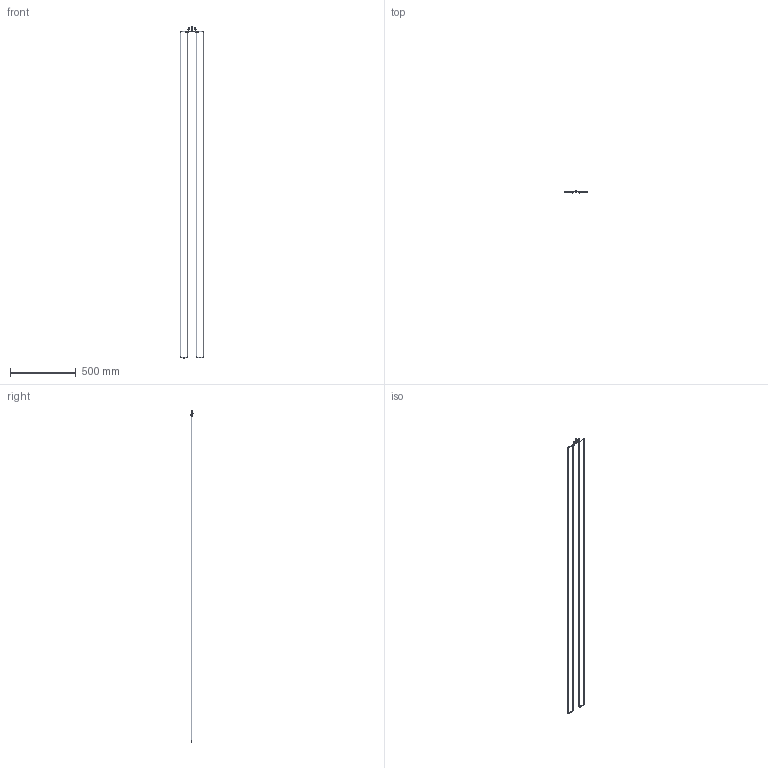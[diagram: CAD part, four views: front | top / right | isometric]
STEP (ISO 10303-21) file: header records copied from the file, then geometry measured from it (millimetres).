
FILE_DESCRIPTION(/* description */ (''),/* implementation_level */ '2;1');
FILE_NAME(/* name */ '2109_BTL_Tray_piping.stp',/* time_stamp */ '2021-12-09T18:17:07+01:00',/* author */ (''),/* organization */ (''),/* preprocessor_version */ 'ST-DEVELOPER v18.1',/* originating_system */ 'SIEMENS PLM Software NX 1992',/* authorisation */ '');
FILE_SCHEMA (('AUTOMOTIVE_DESIGN { 1 0 10303 214 3 1 1 1 }'));
Length unit declared in the file: millimetre
Products named in the file (1): bmas4468F255uksj
Bounding box: 180.36 x 17.38 x 2526.12 mm (x, y, z)
Volume: 29170.1 mm3; surface area: 214160.6 mm2
Topology: 14 solids, 14 shells, 192 faces, 378 edges, 228 vertices
Faces by surface type: plane 65, cylinder 60, cone 47, torus 20
Full cylindrical faces by diameter (mm): 3 x20, 3.5 x20, 4 x2, 5 x4, 5.08 x3, 5.334 x3, 5.5 x2, 6.35 x3, 7.938 x3
Entity records: 4378 total; most frequent: CARTESIAN_POINT 819, DIRECTION 752, ORIENTED_EDGE 540, AXIS2_PLACEMENT_3D 361, EDGE_LOOP 328, FACE_BOUND 271, EDGE_CURVE 270, VERTEX_POINT 212
